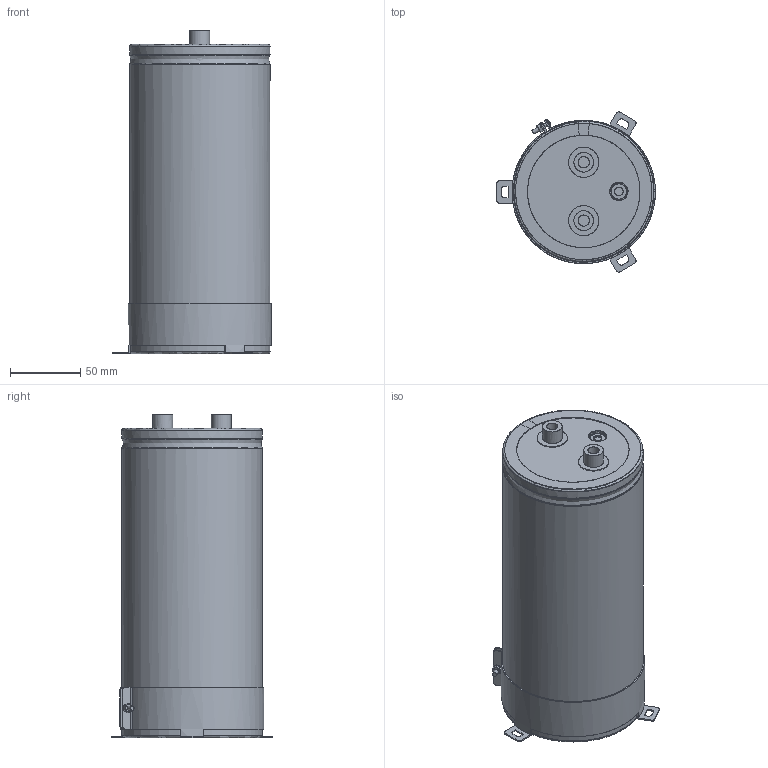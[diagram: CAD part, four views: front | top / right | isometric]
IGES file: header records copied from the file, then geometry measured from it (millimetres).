
Start section: JAMA-IS VERSION  1.0
Bounding box: 113 x 113.92 x 230 mm (x, y, z)
Surface area: 256791.5 mm2 (no closed solid volume)
Topology: 0 solids, 0 shells, 257 faces, 4488 edges, 4459 vertices
Faces by surface type: bspline 257
